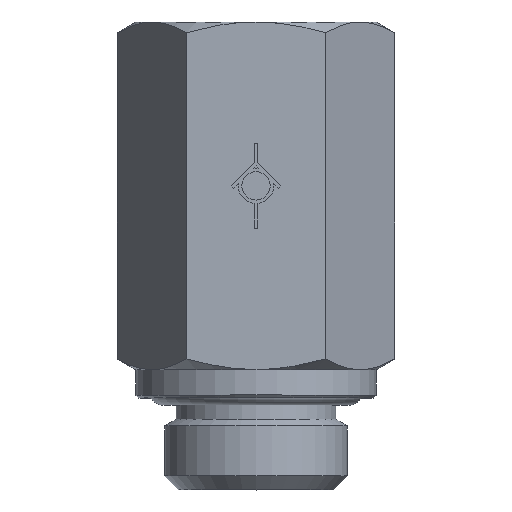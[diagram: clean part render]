
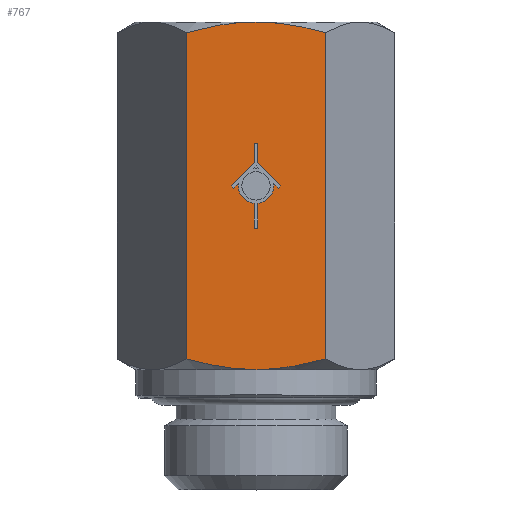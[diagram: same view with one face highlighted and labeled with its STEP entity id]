
A CAD part, top view. The second image highlights one B-rep face of the part: STEP entity #767.
In plain terms, the highlighted planar face has unit normal (0, 0, 1).
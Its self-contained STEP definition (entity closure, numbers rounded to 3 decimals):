
#289=CARTESIAN_POINT('',(-0.125,20.256,8.5));
#290=VERTEX_POINT('',#289);
#291=CARTESIAN_POINT('',(-1.237,21.677,8.5));
#292=VERTEX_POINT('',#291);
#293=CARTESIAN_POINT('',(0.,21.5,8.5));
#294=DIRECTION('',(0.0,0.0,-1.));
#295=DIRECTION('',(0.99,-0.141,0.0));
#296=AXIS2_PLACEMENT_3D('',#293,#294,#295);
#297=CIRCLE('',#296,1.25);
#298=EDGE_CURVE('',#290,#292,#297,.T.);
#321=CARTESIAN_POINT('',(-1.591,21.323,8.5));
#322=VERTEX_POINT('',#321);
#323=CARTESIAN_POINT('',(-1.237,21.677,8.5));
#324=DIRECTION('',(-0.707,-0.707,0.0));
#325=VECTOR('',#324,0.5);
#326=LINE('',#323,#325);
#327=EDGE_CURVE('',#292,#322,#326,.T.);
#345=CARTESIAN_POINT('',(-1.768,21.5,8.5));
#346=VERTEX_POINT('',#345);
#347=CARTESIAN_POINT('',(-1.591,21.323,8.5));
#348=DIRECTION('',(-0.707,0.707,0.0));
#349=VECTOR('',#348,0.25);
#350=LINE('',#347,#349);
#351=EDGE_CURVE('',#322,#346,#350,.T.);
#369=CARTESIAN_POINT('',(-0.125,23.143,8.5));
#370=VERTEX_POINT('',#369);
#371=CARTESIAN_POINT('',(-1.768,21.5,8.5));
#372=DIRECTION('',(0.707,0.707,0.0));
#373=VECTOR('',#372,2.323);
#374=LINE('',#371,#373);
#375=EDGE_CURVE('',#346,#370,#374,.T.);
#393=CARTESIAN_POINT('',(-0.125,24.5,8.5));
#394=VERTEX_POINT('',#393);
#395=CARTESIAN_POINT('',(-0.125,23.143,8.5));
#396=DIRECTION('',(0.0,1.0,0.0));
#397=VECTOR('',#396,1.357);
#398=LINE('',#395,#397);
#399=EDGE_CURVE('',#370,#394,#398,.T.);
#417=CARTESIAN_POINT('',(0.125,24.5,8.5));
#418=VERTEX_POINT('',#417);
#419=CARTESIAN_POINT('',(-0.125,24.5,8.5));
#420=DIRECTION('',(1.0,0.0,0.0));
#421=VECTOR('',#420,0.25);
#422=LINE('',#419,#421);
#423=EDGE_CURVE('',#394,#418,#422,.T.);
#441=CARTESIAN_POINT('',(0.125,23.143,8.5));
#442=VERTEX_POINT('',#441);
#443=CARTESIAN_POINT('',(0.125,24.5,8.5));
#444=DIRECTION('',(0.0,-1.0,0.0));
#445=VECTOR('',#444,1.357);
#446=LINE('',#443,#445);
#447=EDGE_CURVE('',#418,#442,#446,.T.);
#502=CARTESIAN_POINT('',(-0.125,18.5,8.5));
#503=VERTEX_POINT('',#502);
#504=CARTESIAN_POINT('',(-0.125,18.5,8.5));
#505=DIRECTION('',(0.,1.0,0.0));
#506=VECTOR('',#505,1.756);
#507=LINE('',#504,#506);
#508=EDGE_CURVE('',#503,#290,#507,.T.);
#526=CARTESIAN_POINT('',(0.125,18.5,8.5));
#527=VERTEX_POINT('',#526);
#528=CARTESIAN_POINT('',(0.125,18.5,8.5));
#529=DIRECTION('',(-1.0,0.0,0.0));
#530=VECTOR('',#529,0.25);
#531=LINE('',#528,#530);
#532=EDGE_CURVE('',#527,#503,#531,.T.);
#550=CARTESIAN_POINT('',(0.125,20.256,8.5));
#551=VERTEX_POINT('',#550);
#552=CARTESIAN_POINT('',(0.125,20.256,8.5));
#553=DIRECTION('',(0.,-1.0,0.0));
#554=VECTOR('',#553,1.756);
#555=LINE('',#552,#554);
#556=EDGE_CURVE('',#551,#527,#555,.T.);
#574=CARTESIAN_POINT('',(1.237,21.677,8.5));
#575=VERTEX_POINT('',#574);
#576=CARTESIAN_POINT('',(0.,21.5,8.5));
#577=DIRECTION('',(0.0,0.0,-1.0));
#578=DIRECTION('',(-0.1,0.995,0.0));
#579=AXIS2_PLACEMENT_3D('',#576,#577,#578);
#580=CIRCLE('',#579,1.25);
#581=EDGE_CURVE('',#575,#551,#580,.T.);
#599=CARTESIAN_POINT('',(1.591,21.323,8.5));
#600=VERTEX_POINT('',#599);
#601=CARTESIAN_POINT('',(1.591,21.323,8.5));
#602=DIRECTION('',(-0.707,0.707,0.0));
#603=VECTOR('',#602,0.5);
#604=LINE('',#601,#603);
#605=EDGE_CURVE('',#600,#575,#604,.T.);
#623=CARTESIAN_POINT('',(1.768,21.5,8.5));
#624=VERTEX_POINT('',#623);
#625=CARTESIAN_POINT('',(1.768,21.5,8.5));
#626=DIRECTION('',(-0.707,-0.707,0.0));
#627=VECTOR('',#626,0.25);
#628=LINE('',#625,#627);
#629=EDGE_CURVE('',#624,#600,#628,.T.);
#647=CARTESIAN_POINT('',(0.125,23.143,8.5));
#648=DIRECTION('',(0.707,-0.707,0.0));
#649=VECTOR('',#648,2.323);
#650=LINE('',#647,#649);
#651=EDGE_CURVE('',#442,#624,#650,.T.);
#668=CARTESIAN_POINT('',(-4.907,33.1,8.5));
#669=DIRECTION('',(0.0,0.0,1.0));
#670=DIRECTION('',(1.0,0.0,0.0));
#671=AXIS2_PLACEMENT_3D('',#668,#669,#670);
#672=PLANE('',#671);
#673=CARTESIAN_POINT('',(0.,33.1,8.5));
#674=VERTEX_POINT('',#673);
#675=CARTESIAN_POINT('',(4.907,32.341,8.5));
#676=VERTEX_POINT('',#675);
#677=CARTESIAN_POINT('',(0.,33.1,8.5));
#678=CARTESIAN_POINT('',(2.278,33.1,8.5));
#679=CARTESIAN_POINT('',(4.907,32.341,8.5));
#687=(BOUNDED_CURVE()B_SPLINE_CURVE(2,(#677,#678,#679),.UNSPECIFIED.,.F.,.U.)B_SPLINE_CURVE_WITH_KNOTS((3,3),(0.498,0.996),.UNSPECIFIED.)CURVE()GEOMETRIC_REPRESENTATION_ITEM()RATIONAL_B_SPLINE_CURVE((1.0,1.038,1.0))REPRESENTATION_ITEM(''));
#688=EDGE_CURVE('',#674,#676,#687,.T.);
#689=ORIENTED_EDGE('',*,*,#688,.F.);
#690=CARTESIAN_POINT('',(-4.907,32.341,8.5));
#691=VERTEX_POINT('',#690);
#692=CARTESIAN_POINT('',(-4.907,32.341,8.5));
#693=CARTESIAN_POINT('',(-2.278,33.1,8.5));
#694=CARTESIAN_POINT('',(0.,33.1,8.5));
#702=(BOUNDED_CURVE()B_SPLINE_CURVE(2,(#692,#693,#694),.UNSPECIFIED.,.F.,.U.)B_SPLINE_CURVE_WITH_KNOTS((3,3),(0.0,0.498),.UNSPECIFIED.)CURVE()GEOMETRIC_REPRESENTATION_ITEM()RATIONAL_B_SPLINE_CURVE((1.0,1.038,1.0))REPRESENTATION_ITEM(''));
#703=EDGE_CURVE('',#691,#674,#702,.T.);
#704=ORIENTED_EDGE('',*,*,#703,.F.);
#705=CARTESIAN_POINT('',(-4.907,9.259,8.5));
#706=VERTEX_POINT('',#705);
#707=CARTESIAN_POINT('',(-4.907,32.341,8.5));
#708=DIRECTION('',(0.0,-1.0,0.0));
#709=VECTOR('',#708,23.082);
#710=LINE('',#707,#709);
#711=EDGE_CURVE('',#691,#706,#710,.T.);
#712=ORIENTED_EDGE('',*,*,#711,.T.);
#713=CARTESIAN_POINT('',(0.,8.5,8.5));
#714=VERTEX_POINT('',#713);
#715=CARTESIAN_POINT('',(0.,8.5,8.5));
#716=CARTESIAN_POINT('',(-2.278,8.5,8.5));
#717=CARTESIAN_POINT('',(-4.907,9.259,8.5));
#725=(BOUNDED_CURVE()B_SPLINE_CURVE(2,(#715,#716,#717),.UNSPECIFIED.,.F.,.U.)B_SPLINE_CURVE_WITH_KNOTS((3,3),(0.498,0.996),.UNSPECIFIED.)CURVE()GEOMETRIC_REPRESENTATION_ITEM()RATIONAL_B_SPLINE_CURVE((1.0,1.038,1.0))REPRESENTATION_ITEM(''));
#726=EDGE_CURVE('',#714,#706,#725,.T.);
#727=ORIENTED_EDGE('',*,*,#726,.F.);
#728=CARTESIAN_POINT('',(4.907,9.259,8.5));
#729=VERTEX_POINT('',#728);
#730=CARTESIAN_POINT('',(4.907,9.259,8.5));
#731=CARTESIAN_POINT('',(2.278,8.5,8.5));
#732=CARTESIAN_POINT('',(0.,8.5,8.5));
#740=(BOUNDED_CURVE()B_SPLINE_CURVE(2,(#730,#731,#732),.UNSPECIFIED.,.F.,.U.)B_SPLINE_CURVE_WITH_KNOTS((3,3),(0.0,0.498),.UNSPECIFIED.)CURVE()GEOMETRIC_REPRESENTATION_ITEM()RATIONAL_B_SPLINE_CURVE((1.0,1.038,1.0))REPRESENTATION_ITEM(''));
#741=EDGE_CURVE('',#729,#714,#740,.T.);
#742=ORIENTED_EDGE('',*,*,#741,.F.);
#743=CARTESIAN_POINT('',(4.907,32.341,8.5));
#744=DIRECTION('',(0.0,-1.0,0.0));
#745=VECTOR('',#744,23.082);
#746=LINE('',#743,#745);
#747=EDGE_CURVE('',#676,#729,#746,.T.);
#748=ORIENTED_EDGE('',*,*,#747,.F.);
#749=EDGE_LOOP('',(#689,#704,#712,#727,#742,#748));
#750=FACE_OUTER_BOUND('',#749,.T.);
#751=ORIENTED_EDGE('',*,*,#298,.T.);
#752=ORIENTED_EDGE('',*,*,#327,.T.);
#753=ORIENTED_EDGE('',*,*,#351,.T.);
#754=ORIENTED_EDGE('',*,*,#375,.T.);
#755=ORIENTED_EDGE('',*,*,#399,.T.);
#756=ORIENTED_EDGE('',*,*,#423,.T.);
#757=ORIENTED_EDGE('',*,*,#447,.T.);
#758=ORIENTED_EDGE('',*,*,#651,.T.);
#759=ORIENTED_EDGE('',*,*,#629,.T.);
#760=ORIENTED_EDGE('',*,*,#605,.T.);
#761=ORIENTED_EDGE('',*,*,#581,.T.);
#762=ORIENTED_EDGE('',*,*,#556,.T.);
#763=ORIENTED_EDGE('',*,*,#532,.T.);
#764=ORIENTED_EDGE('',*,*,#508,.T.);
#765=EDGE_LOOP('',(#751,#752,#753,#754,#755,#756,#757,#758,#759,#760,#761,#762,#763,#764));
#766=FACE_BOUND('',#765,.T.);
#767=ADVANCED_FACE('',(#750,#766),#672,.T.);
